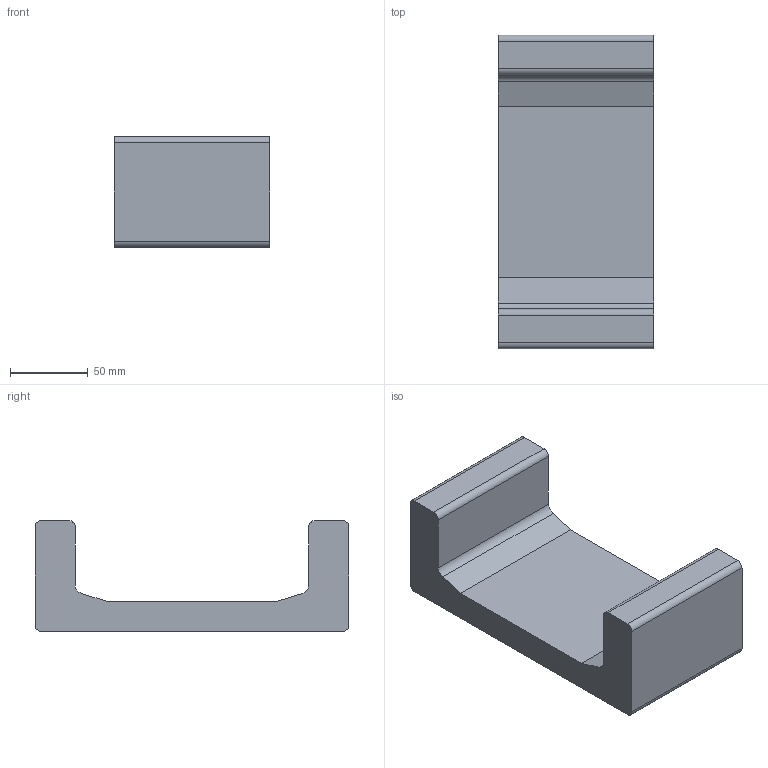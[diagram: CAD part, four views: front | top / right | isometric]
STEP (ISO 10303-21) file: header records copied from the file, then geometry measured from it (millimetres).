
FILE_DESCRIPTION((''),'2;1');
FILE_NAME('K:\Daten\KOMPONENTEN 2D + 3D\KOMPONENTEN Inventor-Files\ALFATEC_UP 150.0700.stp','2013-09-25T14:06:05',('hipp'),(''),'Autodesk Inventor 2013','Autodesk Inventor 2013','');
FILE_SCHEMA(('AUTOMOTIVE_DESIGN { 1 0 10303 214 1 1 1 1 }'));
Length unit declared in the file: millimetre
Products named in the file (1): ALFATEC UP 150.0700 (100mm)
Bounding box: 100 x 201.5 x 71.2 mm (x, y, z)
Volume: 668296.7 mm3; surface area: 75939 mm2
Topology: 1 solids, 1 shells, 20 faces, 54 edges, 36 vertices
Faces by surface type: plane 12, cylinder 8
Entity records: 660 total; most frequent: DIRECTION 112, CARTESIAN_POINT 111, ORIENTED_EDGE 108, EDGE_CURVE 54, VECTOR 38, LINE 38, AXIS2_PLACEMENT_3D 37, VERTEX_POINT 36
